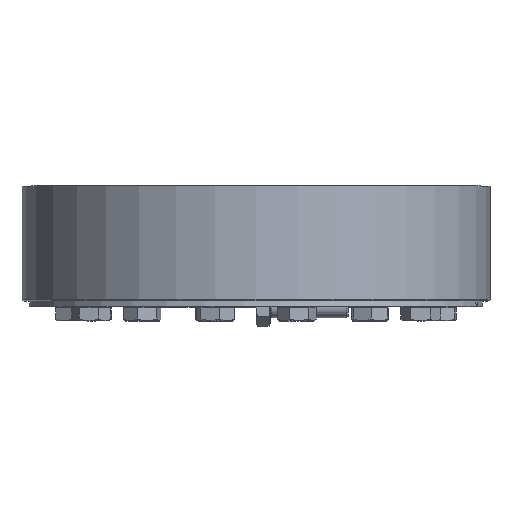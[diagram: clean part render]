
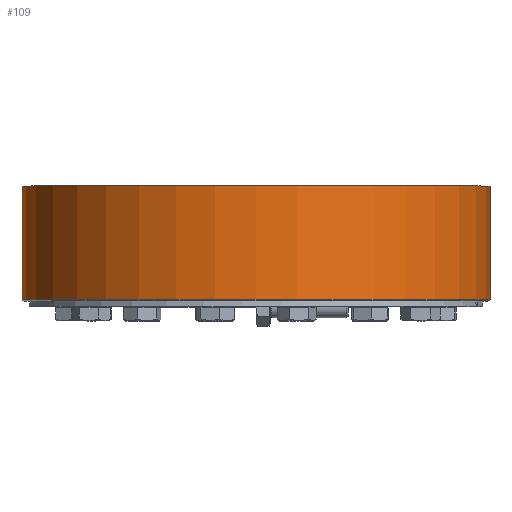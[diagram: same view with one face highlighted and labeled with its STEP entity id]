
A CAD part, top view. The second image highlights one B-rep face of the part: STEP entity #109.
In plain terms, the highlighted cylindrical face has radius 165 mm (diameter 330 mm), a full revolution.
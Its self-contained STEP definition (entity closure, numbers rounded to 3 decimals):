
#109 = ADVANCED_FACE( '', ( #247, #248 ), #249, .T. );
#247 = FACE_OUTER_BOUND( '', #422, .T. );
#248 = FACE_OUTER_BOUND( '', #423, .T. );
#249 = CYLINDRICAL_SURFACE( '', #424, 165. );
#422 = EDGE_LOOP( '', ( #708 ) );
#423 = EDGE_LOOP( '', ( #709 ) );
#424 = AXIS2_PLACEMENT_3D( '', #710, #711, #712 );
#708 = ORIENTED_EDGE( '', *, *, #902, .T. );
#709 = ORIENTED_EDGE( '', *, *, #920, .T. );
#710 = CARTESIAN_POINT( '', ( 0., -60., 0. ) );
#711 = DIRECTION( '', ( 0., 1., 0. ) );
#712 = DIRECTION( '', ( 0., 0., -1. ) );
#902 = EDGE_CURVE( '', #1087, #1087, #1088, .F. );
#920 = EDGE_CURVE( '', #1114, #1114, #1115, .T. );
#1087 = VERTEX_POINT( '', #1434 );
#1088 = CIRCLE( '', #1435, 165. );
#1114 = VERTEX_POINT( '', #1467 );
#1115 = CIRCLE( '', #1468, 165. );
#1434 = CARTESIAN_POINT( '', ( 0., 5., -165. ) );
#1435 = AXIS2_PLACEMENT_3D( '', #1620, #1621, #1622 );
#1467 = CARTESIAN_POINT( '', ( 0., 85., -165. ) );
#1468 = AXIS2_PLACEMENT_3D( '', #1650, #1651, #1652 );
#1620 = CARTESIAN_POINT( '', ( 0., 5., 0. ) );
#1621 = DIRECTION( '', ( 0., -1., 0. ) );
#1622 = DIRECTION( '', ( 0., 0., -1. ) );
#1650 = CARTESIAN_POINT( '', ( 0., 85., 0. ) );
#1651 = DIRECTION( '', ( 0., -1., 0. ) );
#1652 = DIRECTION( '', ( 0., 0., -1. ) );
